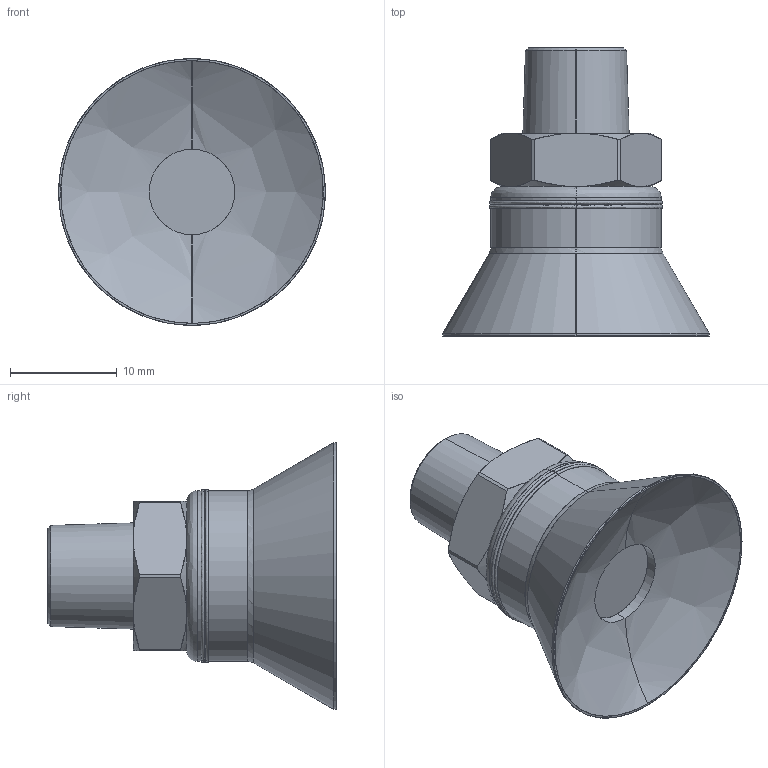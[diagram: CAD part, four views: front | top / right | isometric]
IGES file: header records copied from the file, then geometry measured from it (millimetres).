
Start section: SolidWorks IGES file using analytic representation for surfaces
Global section: file name: E:\eins\20070625石神\シュマルツ\SQNシリーズ\183833.IGS; native system: SolidWorks 2006 by SolidWorks Corporation; preprocessor: SolidWorks 2006 by SolidWorks Corporation; author: CAD54; date: 070625.165206; units: millimetre
Bounding box: 25 x 27 x 25 mm (x, y, z)
Surface area: 2238.8 mm2 (no closed solid volume)
Topology: 0 solids, 0 shells, 57 faces, 616 edges, 616 vertices
Faces by surface type: revolution 36, bspline 21
